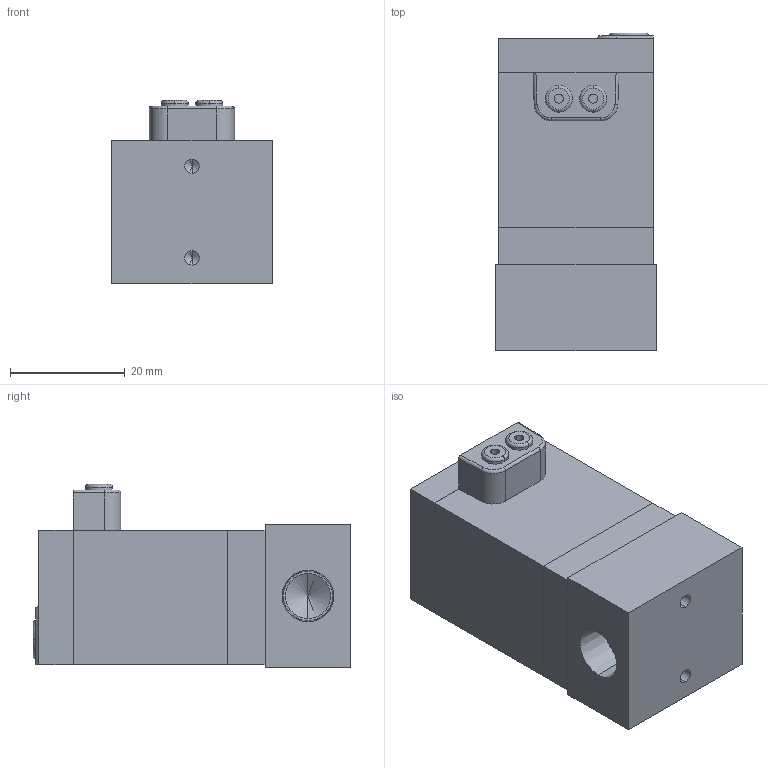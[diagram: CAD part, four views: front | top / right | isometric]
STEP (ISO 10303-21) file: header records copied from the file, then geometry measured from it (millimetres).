
FILE_DESCRIPTION (( 'STEP AP203' ), '1' );
FILE_NAME ('SS231-01-#L#.STEP', '2016-08-01T03:14:30', ( '' ), ( '' ), 'SwSTEP 2.0', 'SolidWorks 2014', '' );
FILE_SCHEMA (( 'CONFIG_CONTROL_DESIGN' ));
Length unit declared in the file: millimetre
Products named in the file (8): PC6-M3; PCS2406-7-L; SS231-1; L2; SS231-01-#L#; PCS2406-8; PCS2406-9
Assembly tree (8 placements, depth 3):
  SS231-01-#L#
    (unnamed)
    SS231-1
    L2
      PCS2406-8
      PCS2406-9
      PC6-M3  x2
      PCS2406-7-L
Bounding box: 28 x 55.5 x 32 mm (x, y, z)
Volume: 35147.3 mm3; surface area: 12564.9 mm2
Topology: 7 solids, 7 shells, 171 faces, 402 edges, 248 vertices
Faces by surface type: plane 83, cylinder 35, cone 31, torus 16, sphere 6
Entity records: 4740 total; most frequent: DIRECTION 736, CARTESIAN_POINT 684, ORIENTED_EDGE 616, EDGE_CURVE 308, AXIS2_PLACEMENT_3D 289, VERTEX_POINT 197, VECTOR 158, LINE 158
